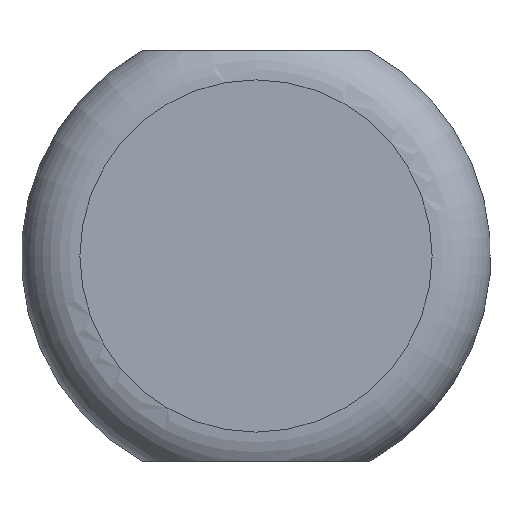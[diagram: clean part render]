
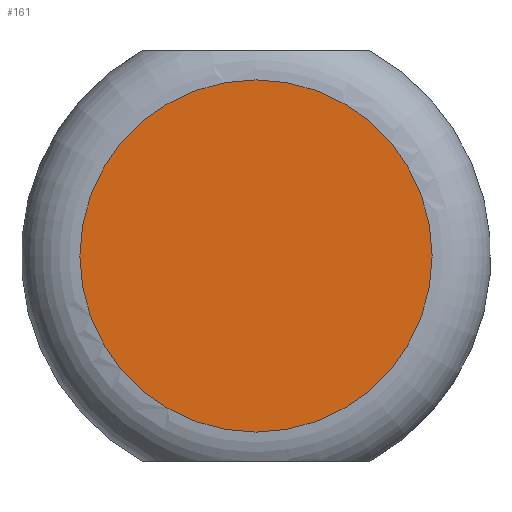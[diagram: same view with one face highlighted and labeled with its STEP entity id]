
A CAD part, left-side view. The second image highlights one B-rep face of the part: STEP entity #161.
In plain terms, the highlighted planar face has unit normal (-1, 0, 0).
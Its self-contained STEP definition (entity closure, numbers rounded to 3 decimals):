
#24=PLANE('',#204);
#36=FACE_OUTER_BOUND('',#47,.T.);
#47=EDGE_LOOP('',(#147));
#74=CIRCLE('',#203,6.);
#88=VERTEX_POINT('',#333);
#109=EDGE_CURVE('',#88,#88,#74,.T.);
#147=ORIENTED_EDGE('',*,*,#109,.F.);
#161=ADVANCED_FACE('',(#36),#24,.T.);
#203=AXIS2_PLACEMENT_3D('',#335,#250,#251);
#204=AXIS2_PLACEMENT_3D('',#336,#252,#253);
#250=DIRECTION('center_axis',(1.,0.,0.));
#251=DIRECTION('ref_axis',(0.,0.,-1.));
#252=DIRECTION('center_axis',(-1.,0.,0.));
#253=DIRECTION('ref_axis',(0.,0.,1.));
#333=CARTESIAN_POINT('',(0.,0.,6.));
#335=CARTESIAN_POINT('Origin',(0.,0.,0.));
#336=CARTESIAN_POINT('Origin',(0.,6.,0.));
